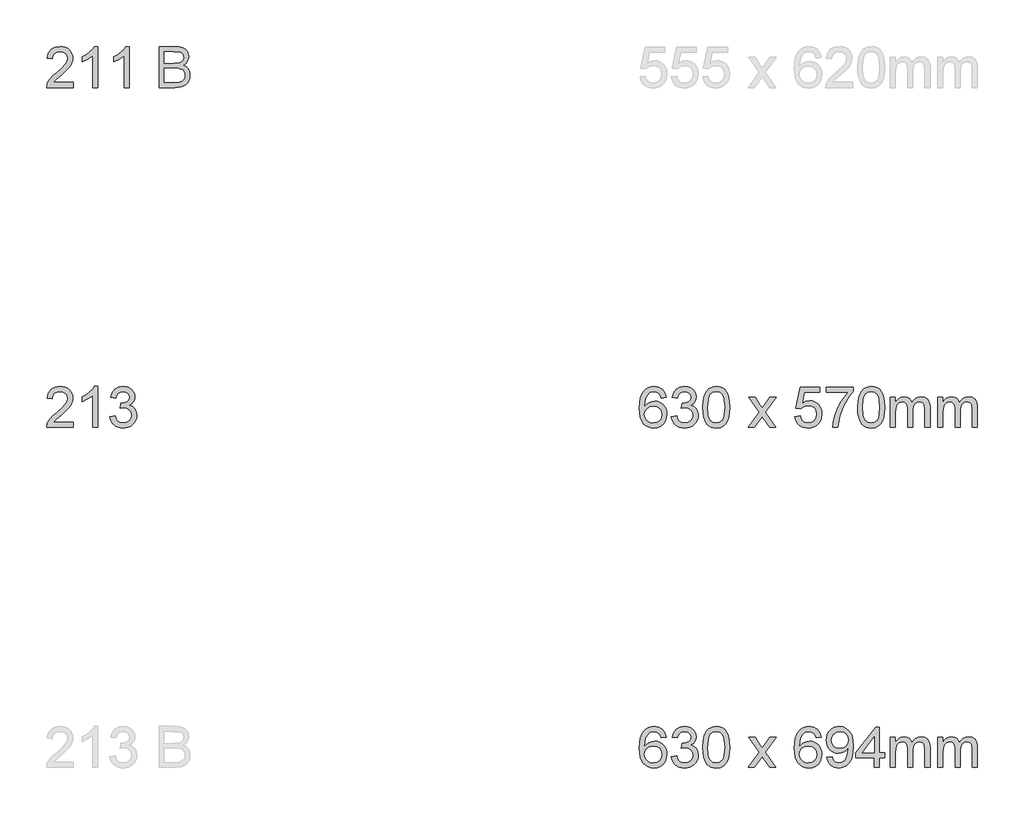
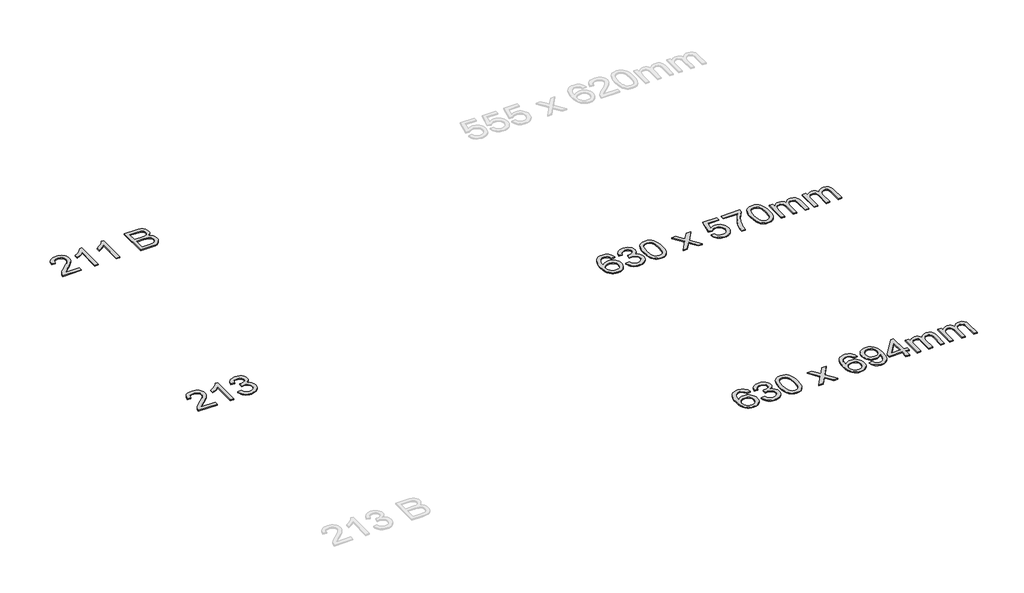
# One storey, part 32 of 35: 4 proxies.
"""IFC4 building model written with IfcOpenShell, lengths in millimetres."""

from ifc_helpers import new_model, si_unit, origin, origin_with_axes, place, context, project, spatial, polyline, outline, extrude, element, save

model = new_model("IFC4")

# Units and contexts
model_context = context("Model", 3, world=origin())
ifc_project = project(units=[si_unit("LENGTHUNIT", "METRE", prefix="MILLI")], contexts=[model_context])

# Site, building, storey
site = spatial("IfcSite", under=ifc_project)
building = spatial("IfcBuilding", under=site)
storey = spatial("IfcBuildingStorey", under=building, Name="Marelli - Linha YOU - Planta Baixa", Elevation=0.0)

# Proxies
placement = place(None, origin())
element("IfcBuildingElementProxy", 1, Name="300mm Arial", ObjectType="300mm Arial", at=placement, inside=storey, context=model_context, shape_type="SweptSolid", body=[
    extrude(outline(polyline([(-29510.11462, 11257.1047962), (-29510.11462, 11219.4336799), (-29707.8879806, 11219.4336799), (-29703.8412787, 11245.4061488), (-29694.5522583, 11265.7040379), (-29680.9590186, 11285.3949217), (-29661.2957259, 11306.0055104), (-29633.7965468, 11329.0625145), (-29593.1455863, 11365.1701323), (-29568.75501, 11391.8231829), (-29556.5597219, 11413.4546442), (-29552.4946258, 11434.4974943), (-29556.3297956, 11453.3606436), (-29567.835305, 11469.0416137), (-29585.521232, 11479.609024), (-29607.8976543, 11483.1314941), (-29631.3961168, 11479.6917974), (-29649.6522608, 11469.3727075), (-29661.4336817, 11452.9835646), (-29665.5079748, 11431.3337092), (-29703.1790911, 11436.0425987), (-29694.0464205, 11472.4813103), (-29685.5000619, 11487.0172476), (-29674.3003544, 11499.0975727), (-29660.7048155, 11508.5935267), (-29644.9709624, 11515.376351), (-29607.0883139, 11520.8026104), (-29586.8984902, 11519.2942942), (-29568.929754, 11514.7693457), (-29553.1821053, 11507.2277648), (-29539.6555442, 11496.6695515), (-29528.791529, 11483.8764551), (-29521.0315182, 11469.6302249), (-29516.3755117, 11453.9308607), (-29514.8235095, 11436.7783627), (-29516.4973726, 11418.761342), (-29521.5189619, 11401.057021), (-29530.4309032, 11383.0491973), (-29543.7758226, 11364.1216686), (-29565.0485989, 11341.5245171), (-29597.7441113, 11312.5078247), (-29641.0806103, 11276.2714482), (-29658.0767585, 11257.1047962), (-29510.11462, 11257.1047962)])), origin_with_axes(), (0.0, 0.0, 1.0), 10.0),
    extrude(outline(polyline([(-29331.1768175, 11219.4336799), (-29368.8479339, 11219.4336799), (-29368.8479339, 11454.2895457), (-29404.5324874, 11428.8688998), (-29444.1901665, 11409.8494006), (-29444.1901665, 11445.4603778), (-29414.603257, 11461.5552151), (-29388.971079, 11480.7034729), (-29368.7651604, 11501.0657413), (-29355.4570292, 11520.8026104), (-29331.1768175, 11520.8026104), (-29331.1768175, 11219.4336799)])), origin_with_axes(), (0.0, 0.0, 1.0), 10.0),
    extrude(outline(polyline([(-29100.4412302, 11219.4336799), (-29138.1123465, 11219.4336799), (-29138.1123465, 11454.2895457), (-29173.7969, 11428.8688998), (-29213.4545791, 11409.8494006), (-29213.4545791, 11445.4603778), (-29183.8676696, 11461.5552151), (-29158.2354916, 11480.7034729), (-29138.029573, 11501.0657413), (-29124.7214419, 11520.8026104), (-29100.4412302, 11520.8026104), (-29100.4412302, 11219.4336799)])), origin_with_axes(), (0.0, 0.0, 1.0), 10.0),
    extrude(outline(polyline([(-28879.1234219, 11219.4336799), (-28879.1234219, 11520.8026104), (-28764.1235102, 11520.8026104), (-28732.4948556, 11518.5861214), (-28707.8007767, 11511.9366543), (-28688.8732481, 11500.6886623), (-28674.5442444, 11484.6765985), (-28665.5219384, 11465.8410403), (-28662.5145031, 11446.1225654), (-28665.0436918, 11427.9767859), (-28672.631258, 11410.9162584), (-28685.3323839, 11395.9894465), (-28703.2022518, 11384.2448138), (-28681.855899, 11373.0979893), (-28666.0829585, 11356.1386293), (-28656.3432826, 11334.4887739), (-28653.096724, 11309.2704632), (-28655.3132131, 11288.2552042), (-28661.9626801, 11268.7666555), (-28671.8862969, 11252.1935716), (-28683.9252352, 11239.9247071), (-28698.6681062, 11231.0403569), (-28716.703521, 11224.6208161), (-28765.006427, 11219.4336799), (-28879.1234219, 11219.4336799)]), holes=[polyline([(-28841.4523056, 11398.3714824), (-28772.6583725, 11398.3714824), (-28732.4856586, 11401.6088439), (-28718.4233693, 11407.1914532), (-28708.3158115, 11415.5515716), (-28702.2181674, 11426.5604403), (-28700.1856194, 11440.0893006), (-28702.0802117, 11453.2226879), (-28707.7639885, 11464.6638179), (-28716.9794325, 11473.5941533), (-28729.4690262, 11479.1951567), (-28777.8822968, 11483.1314941), (-28841.4523056, 11483.1314941), (-28841.4523056, 11398.3714824)]), polyline([(-28841.4523056, 11257.1047962), (-28764.1970866, 11257.1047962), (-28736.2380549, 11258.5763242), (-28712.5832427, 11266.7800927), (-28696.9114697, 11283.5187235), (-28692.3037477, 11295.3461296), (-28690.7678403, 11308.9025812), (-28692.5704621, 11324.6479306), (-28697.9783274, 11338.185988), (-28707.4236977, 11348.7717924), (-28721.3388341, 11355.6603827), (-28741.048112, 11359.4403702), (-28767.8759065, 11360.7003661), (-28841.4523056, 11360.7003661), (-28841.4523056, 11257.1047962)])]), origin_with_axes(), (0.0, 0.0, 1.0), 10.0),
])
element("IfcBuildingElementProxy", 2, Name="300mm Arial", ObjectType="300mm Arial", at=placement, inside=storey, context=model_context, shape_type="SweptSolid", body=[
    extrude(outline(polyline([(-29510.11462, 8757.1047962), (-29510.11462, 8719.4336799), (-29707.8879806, 8719.4336799), (-29703.8412787, 8745.4061488), (-29694.5522583, 8765.7040379), (-29680.9590186, 8785.3949217), (-29661.2957259, 8806.0055104), (-29633.7965468, 8829.0625145), (-29593.1455863, 8865.1701323), (-29568.75501, 8891.8231829), (-29556.5597219, 8913.4546442), (-29552.4946258, 8934.4974943), (-29556.3297956, 8953.3606436), (-29567.835305, 8969.0416137), (-29585.521232, 8979.609024), (-29607.8976543, 8983.1314941), (-29631.3961168, 8979.6917974), (-29649.6522608, 8969.3727075), (-29661.4336817, 8952.9835646), (-29665.5079748, 8931.3337092), (-29703.1790911, 8936.0425987), (-29694.0464205, 8972.4813103), (-29685.5000619, 8987.0172476), (-29674.3003544, 8999.0975727), (-29660.7048155, 9008.5935267), (-29644.9709624, 9015.376351), (-29607.0883139, 9020.8026104), (-29586.8984902, 9019.2942942), (-29568.929754, 9014.7693457), (-29553.1821053, 9007.2277648), (-29539.6555442, 8996.6695515), (-29528.791529, 8983.8764551), (-29521.0315182, 8969.6302249), (-29516.3755117, 8953.9308607), (-29514.8235095, 8936.7783627), (-29516.4973726, 8918.761342), (-29521.5189619, 8901.057021), (-29530.4309032, 8883.0491973), (-29543.7758226, 8864.1216686), (-29565.0485989, 8841.5245171), (-29597.7441113, 8812.5078247), (-29641.0806103, 8776.2714482), (-29658.0767585, 8757.1047962), (-29510.11462, 8757.1047962)])), origin_with_axes(), (0.0, 0.0, 1.0), 10.0),
    extrude(outline(polyline([(-29331.1768175, 8719.4336799), (-29368.8479339, 8719.4336799), (-29368.8479339, 8954.2895457), (-29404.5324874, 8928.8688998), (-29444.1901665, 8909.8494006), (-29444.1901665, 8945.4603778), (-29414.603257, 8961.5552151), (-29388.971079, 8980.7034729), (-29368.7651604, 9001.0657413), (-29355.4570292, 9020.8026104), (-29331.1768175, 9020.8026104), (-29331.1768175, 8719.4336799)])), origin_with_axes(), (0.0, 0.0, 1.0), 10.0),
    extrude(outline(polyline([(-29241.7079163, 8799.4848021), (-29204.0368, 8804.1936916), (-29195.6031053, 8780.5204852), (-29183.2514673, 8764.5360125), (-29166.3748808, 8755.4309332), (-29144.3663404, 8752.3959067), (-29118.5410243, 8756.5713673), (-29098.6018202, 8769.0977493), (-29085.8547091, 8787.7861546), (-29081.605672, 8810.4476855), (-29085.8179209, 8831.9595852), (-29098.4546674, 8849.4063888), (-29117.5845311, 8860.9670805), (-29141.2761316, 8864.8206444), (-29167.6900589, 8860.7003661), (-29163.4962041, 8898.3714824), (-29157.4629394, 8897.930024), (-29134.893379, 8900.6339567), (-29114.7150516, 8908.7457546), (-29100.4780184, 8922.4677531), (-29095.7323406, 8942.002287), (-29099.1720373, 8958.2718683), (-29109.4911273, 8971.4696348), (-29125.2364766, 8980.2160293), (-29144.9549516, 8983.1314941), (-29164.7102147, 8980.1884381), (-29180.8602343, 8971.3592702), (-29192.6508523, 8956.6439904), (-29199.3279105, 8936.0425987), (-29236.9990268, 8940.7514882), (-29225.9073846, 8974.5782377), (-29206.1705156, 8999.8333367), (-29179.1679771, 9015.5602919), (-29146.2793268, 9020.8026104), (-29122.5969233, 9018.2182394), (-29100.8459004, 9010.4651263), (-29082.5069829, 8998.23305), (-29069.060896, 8982.2117891), (-29060.8111422, 8963.75331), (-29058.0612243, 8944.209579), (-29060.6731865, 8925.9994202), (-29068.509073, 8909.4815186), (-29081.4585192, 8895.4100323), (-29099.4111606, 8884.5391194), (-29075.8299247, 8875.0109757), (-29058.3555299, 8858.7873797), (-29047.5397993, 8836.7512482), (-29043.9345557, 8809.7854979), (-29045.7371775, 8790.6740283), (-29051.1450428, 8773.0708748), (-29060.1581517, 8756.9760375), (-29072.7765041, 8742.3895164), (-29088.149373, 8730.2861988), (-29105.4260312, 8721.6409719), (-29124.6064787, 8716.4538358), (-29145.6907156, 8714.7247904), (-29164.7470029, 8716.2009169), (-29182.1110331, 8720.6292964), (-29197.7828061, 8728.0099289), (-29211.7623219, 8738.3428145), (-29223.483962, 8751.0209477), (-29232.3821077, 8765.4373234), (-29238.4567592, 8781.5919415), (-29241.7079163, 8799.4848021)])), origin_with_axes(), (0.0, 0.0, 1.0), 10.0),
])
element("IfcBuildingElementProxy", 3, Name="300mm Arial", ObjectType="300mm Arial", at=placement, inside=storey, context=model_context, shape_type="SweptSolid", body=[
    extrude(outline(polyline([(-25150.5235972, 8940.7514882), (-25188.1947135, 8936.0425987), (-25194.2647664, 8954.7126099), (-25202.4685349, 8967.4597211), (-25219.5566536, 8979.2135508), (-25240.2132276, 8983.1314941), (-25257.7244106, 8980.8506257), (-25274.205524, 8974.0080206), (-25288.3597837, 8959.5962434), (-25299.9204754, 8939.7582068), (-25307.7287708, 8911.6980077), (-25310.6258415, 8872.6197427), (-25295.5150886, 8890.2504873), (-25277.4060973, 8902.6757017), (-25257.3105434, 8910.0425387), (-25236.2401021, 8912.498151), (-25218.1403079, 8910.8196894), (-25201.4384653, 8905.7843046), (-25186.1345743, 8897.3919966), (-25172.2286349, 8885.6427654), (-25160.6725417, 8871.2355867), (-25152.4181895, 8854.8694365), (-25147.4655781, 8836.5443146), (-25145.8147077, 8816.2602211), (-25148.9233105, 8789.2852738), (-25158.2491191, 8764.2784951), (-25173.0195812, 8743.0700981), (-25192.4621447, 8727.4902956), (-25215.6938927, 8717.9161667), (-25241.8319084, 8714.7247904), (-25264.288805, 8716.8401119), (-25284.5705992, 8723.1860763), (-25302.6772911, 8733.7626836), (-25318.6088808, 8748.5699339), (-25331.5974145, 8768.2332266), (-25340.8749386, 8793.377961), (-25346.441453, 8824.0041371), (-25348.2969578, 8860.1117549), (-25346.2368186, 8900.5925699), (-25340.0564011, 8935.1412878), (-25329.7557053, 8963.7579085), (-25315.334731, 8986.442432), (-25299.7043448, 9001.4750101), (-25281.581558, 9012.2125658), (-25260.9663707, 9018.6550992), (-25237.8587829, 9020.8026104), (-25204.8045856, 9015.4867156), (-25178.335476, 8999.5390311), (-25159.7942235, 8974.2103557), (-25150.5235972, 8940.7514882)]), holes=[polyline([(-25310.6258415, 8816.8488323), (-25308.4461407, 8800.1561867), (-25301.9070382, 8784.2176993), (-25291.7534952, 8770.514095), (-25278.7304725, 8760.5260988), (-25263.0127143, 8754.4284547), (-25244.7749644, 8752.3959067), (-25219.9153385, 8756.6081555), (-25200.3716076, 8769.2449021), (-25187.7072699, 8789.1105298), (-25183.485824, 8815.0094223), (-25187.6520876, 8839.8690481), (-25200.1508784, 8858.8241679), (-25220.0257031, 8870.826318), (-25246.3200687, 8874.8270347), (-25271.1429064, 8870.826318), (-25291.900648, 8858.8241679), (-25305.9445431, 8840.3289006), (-25310.6258415, 8816.8488323)])]), origin_with_axes(), (0.0, 0.0, 1.0), 10.0),
    extrude(outline(polyline([(-25112.8524809, 8799.4848021), (-25075.1813646, 8804.1936916), (-25066.7476699, 8780.5204852), (-25054.3960319, 8764.5360125), (-25037.5194453, 8755.4309332), (-25015.510905, 8752.3959067), (-24989.6855889, 8756.5713673), (-24969.7463848, 8769.0977493), (-24956.9992736, 8787.7861546), (-24952.7502366, 8810.4476855), (-24956.9624854, 8831.9595852), (-24969.599232, 8849.4063888), (-24988.7290957, 8860.9670805), (-25012.4206962, 8864.8206444), (-25038.8346235, 8860.7003661), (-25034.6407687, 8898.3714824), (-25028.607504, 8897.930024), (-25006.0379436, 8900.6339567), (-24985.8596162, 8908.7457546), (-24971.622583, 8922.4677531), (-24966.8769052, 8942.002287), (-24970.3166019, 8958.2718683), (-24980.6356918, 8971.4696348), (-24996.3810412, 8980.2160293), (-25016.0995162, 8983.1314941), (-25035.8547793, 8980.1884381), (-25052.0047989, 8971.3592702), (-25063.7954168, 8956.6439904), (-25070.4724751, 8936.0425987), (-25108.1435914, 8940.7514882), (-25097.0519492, 8974.5782377), (-25077.3150802, 8999.8333367), (-25050.3125417, 9015.5602919), (-25017.4238914, 9020.8026104), (-24993.7414879, 9018.2182394), (-24971.9904649, 9010.4651263), (-24953.6515475, 8998.23305), (-24940.2054606, 8982.2117891), (-24931.9557068, 8963.75331), (-24929.2057889, 8944.209579), (-24931.8177511, 8925.9994202), (-24939.6536376, 8909.4815186), (-24952.6030838, 8895.4100323), (-24970.5557252, 8884.5391194), (-24946.9744893, 8875.0109757), (-24929.5000945, 8858.7873797), (-24918.6843638, 8836.7512482), (-24915.0791203, 8809.7854979), (-24916.8817421, 8790.6740283), (-24922.2896074, 8773.0708748), (-24931.3027163, 8756.9760375), (-24943.9210687, 8742.3895164), (-24959.2939376, 8730.2861988), (-24976.5705958, 8721.6409719), (-24995.7510433, 8716.4538358), (-25016.8352802, 8714.7247904), (-25035.8915675, 8716.2009169), (-25053.2555977, 8720.6292964), (-25068.9273707, 8728.0099289), (-25082.9068865, 8738.3428145), (-25094.6285266, 8751.0209477), (-25103.5266723, 8765.4373234), (-25109.6013238, 8781.5919415), (-25112.8524809, 8799.4848021)])), origin_with_axes(), (0.0, 0.0, 1.0), 10.0),
    extrude(outline(polyline([(-24882.1168935, 8867.690124), (-24879.3485815, 8915.9286506), (-24871.0436455, 8954.3999103), (-24857.2848588, 8983.6925141), (-24838.1549951, 9004.3950734), (-24813.5160985, 9016.7007261), (-24783.2302132, 9020.8026104), (-24760.0168593, 9018.3745892), (-24739.2315266, 9011.0905257), (-24721.8491023, 8999.2355284), (-24708.8444738, 8983.0947059), (-24699.0220245, 8962.8060138), (-24691.186138, 8938.5074081), (-24686.0541842, 8907.6513057), (-24684.3435329, 8867.690124), (-24687.0842538, 8819.7275089), (-24695.3064164, 8781.3482197), (-24708.9824295, 8752.0280247), (-24728.0847021, 8731.242692), (-24752.7787811, 8718.8542658), (-24783.2302132, 8714.7247904), (-24803.9787577, 8716.5182151), (-24822.3728575, 8721.8984893), (-24838.4125125, 8730.8656129), (-24852.0977227, 8743.419586), (-24865.2311099, 8766.1133066), (-24874.6121008, 8794.3896364), (-24880.2406953, 8828.2485756), (-24882.1168935, 8867.690124)]), holes=[polyline([(-24844.4457772, 8867.7637004), (-24840.0311933, 8808.507108), (-24834.5129633, 8788.2391093), (-24826.7874414, 8774.211309), (-24807.0689665, 8757.8497573), (-24783.2302132, 8752.3959067), (-24759.3914599, 8757.8681514), (-24739.672985, 8774.2848854), (-24731.9474631, 8788.3356784), (-24726.4292332, 8808.5990785), (-24722.0146492, 8867.7637004), (-24726.2820804, 8925.6867205), (-24731.6163693, 8945.8880406), (-24739.0843738, 8960.249234), (-24758.7660605, 8977.410929), (-24783.6716716, 8983.1314941), (-24807.2529075, 8978.0915107), (-24826.1988303, 8962.9715607), (-24834.1818696, 8947.3365759), (-24839.8840405, 8926.2569376), (-24844.4457772, 8867.7637004)])]), origin_with_axes(), (0.0, 0.0, 1.0), 10.0),
    extrude(outline(polyline([(-24547.7857363, 8719.4336799), (-24467.2931558, 8830.6811953), (-24543.0768468, 8940.7514882), (-24497.753785, 8940.7514882), (-24461.1863146, 8887.7764809), (-24444.1165901, 8862.7605053), (-24429.3277339, 8883.2147442), (-24387.683492, 8940.7514882), (-24342.3604302, 8940.7514882), (-24421.970094, 8830.6811953), (-24345.3034862, 8719.4336799), (-24390.626548, 8719.4336799), (-24436.7589502, 8786.3146267), (-24445.2202361, 8798.5283089), (-24502.4626745, 8719.4336799), (-24547.7857363, 8719.4336799)])), origin_with_axes(), (0.0, 0.0, 1.0), 10.0),
    extrude(outline(polyline([(-24204.0368, 8799.4848021), (-24166.3656837, 8804.1936916), (-24159.4495022, 8781.578146), (-24147.3829728, 8765.3821411), (-24130.2212777, 8755.6424653), (-24108.0195993, 8752.3959067), (-24081.0170608, 8756.9116582), (-24060.7835511, 8770.4589127), (-24048.1468046, 8791.4741716), (-24043.9345557, 8818.3939366), (-24047.8800901, 8843.7410061), (-24059.7166933, 8863.1283872), (-24079.5363358, 8875.43404), (-24107.4309881, 8879.5359242), (-24125.7055262, 8877.8988494), (-24140.5035794, 8872.9876247), (-24161.6567942, 8855.9914765), (-24199.3279105, 8860.7003661), (-24166.3656837, 9016.0937208), (-24020.390108, 9016.0937208), (-24020.390108, 8978.4226045), (-24135.9050545, 8978.4226045), (-24152.0182859, 8895.4284264), (-24125.1077179, 8911.762387), (-24096.909563, 8917.2070405), (-24078.5637478, 8915.5193819), (-24061.7124531, 8910.4564059), (-24046.3556791, 8902.0181127), (-24032.4934257, 8890.2045021), (-24021.0178067, 8875.7375426), (-24012.820936, 8859.3392027), (-24007.9028135, 8841.0094823), (-24006.2634394, 8820.7483814), (-24012.1679454, 8783.0772651), (-24019.548578, 8766.283452), (-24029.8814635, 8750.8508023), (-24045.5348424, 8735.0456721), (-24063.8001835, 8723.7562934), (-24084.6774867, 8716.9826661), (-24108.1667521, 8714.7247904), (-24145.1664837, 8720.5281289), (-24160.8451545, 8727.782302), (-24174.6430286, 8737.9381443), (-24186.1232461, 8750.4898181), (-24194.8489472, 8764.9314857), (-24204.0368, 8799.4848021)])), origin_with_axes(), (0.0, 0.0, 1.0), 10.0),
    extrude(outline(polyline([(-23973.3012126, 8978.4226045), (-23973.3012126, 9016.0937208), (-23775.527852, 9016.0937208), (-23775.527852, 8985.6330916), (-23803.7168099, 8949.9577352), (-23831.6298563, 8904.5886881), (-23856.2503588, 8853.6646229), (-23874.5616851, 8801.3242121), (-23883.5380058, 8762.1631737), (-23888.541201, 8719.4336799), (-23926.2123173, 8719.4336799), (-23922.1380242, 8758.2636245), (-23911.2395201, 8804.4144208), (-23893.8111105, 8853.3335291), (-23870.1471012, 8900.4684098), (-23842.5191634, 8943.0783418), (-23813.1989683, 8978.4226045), (-23973.3012126, 8978.4226045)])), origin_with_axes(), (0.0, 0.0, 1.0), 10.0),
    extrude(outline(polyline([(-23742.5656253, 8867.690124), (-23739.7973133, 8915.9286506), (-23731.4923772, 8954.3999103), (-23717.7335906, 8983.6925141), (-23698.6037268, 9004.3950734), (-23673.9648302, 9016.7007261), (-23643.678945, 9020.8026104), (-23620.4655911, 9018.3745892), (-23599.6802583, 9011.0905257), (-23582.2978341, 8999.2355284), (-23569.2932055, 8983.0947059), (-23559.4707563, 8962.8060138), (-23551.6348698, 8938.5074081), (-23546.5029159, 8907.6513057), (-23544.7922647, 8867.690124), (-23547.5329855, 8819.7275089), (-23555.7551481, 8781.3482197), (-23569.4311613, 8752.0280247), (-23588.5334339, 8731.242692), (-23613.2275128, 8718.8542658), (-23643.678945, 8714.7247904), (-23664.4274895, 8716.5182151), (-23682.8215892, 8721.8984893), (-23698.8612442, 8730.8656129), (-23712.5464545, 8743.419586), (-23725.6798417, 8766.1133066), (-23735.0608326, 8794.3896364), (-23740.6894271, 8828.2485756), (-23742.5656253, 8867.690124)]), holes=[polyline([(-23704.894509, 8867.7637004), (-23700.479925, 8808.507108), (-23694.9616951, 8788.2391093), (-23687.2361732, 8774.211309), (-23667.5176982, 8757.8497573), (-23643.678945, 8752.3959067), (-23619.8401917, 8757.8681514), (-23600.1217167, 8774.2848854), (-23592.3961948, 8788.3356784), (-23586.8779649, 8808.5990785), (-23582.463381, 8867.7637004), (-23586.7308121, 8925.6867205), (-23592.065101, 8945.8880406), (-23599.5331055, 8960.249234), (-23619.2147923, 8977.410929), (-23644.1204034, 8983.1314941), (-23667.7016392, 8978.0915107), (-23686.647562, 8962.9715607), (-23694.6306013, 8947.3365759), (-23700.3327722, 8926.2569376), (-23704.894509, 8867.7637004)])]), origin_with_axes(), (0.0, 0.0, 1.0), 10.0),
    extrude(outline(polyline([(-23502.4122588, 8719.4336799), (-23502.4122588, 8940.7514882), (-23464.7411425, 8940.7514882), (-23464.7411425, 8904.3311707), (-23453.4103771, 8921.0606044), (-23438.84225, 8934.1664005), (-23421.5334022, 8942.6368835), (-23401.9804741, 8945.4603778), (-23381.0295945, 8942.5817012), (-23364.2357814, 8933.9456713), (-23351.6910054, 8920.1225054), (-23343.4872369, 8901.6824203), (-23329.7560414, 8920.8352767), (-23314.0934655, 8934.5158884), (-23296.4995091, 8942.7242554), (-23276.9741722, 8945.4603778), (-23248.6564556, 8940.9078381), (-23227.714773, 8927.250219), (-23214.7745238, 8904.1196386), (-23210.4611074, 8871.1482147), (-23210.4611074, 8719.4336799), (-23248.1322237, 8719.4336799), (-23248.1322237, 8854.961407), (-23251.6271027, 8886.4153175), (-23256.5383273, 8895.0881356), (-23264.2822433, 8901.9031495), (-23274.2426484, 8906.3177335), (-23285.8033401, 8907.7892615), (-23306.2115937, 8904.018471), (-23322.849057, 8892.7060997), (-23333.913108, 8873.0795952), (-23337.601125, 8844.3664055), (-23337.601125, 8719.4336799), (-23375.2722413, 8719.4336799), (-23375.2722413, 8859.1552617), (-23377.4519421, 8880.4556292), (-23383.9910446, 8895.6491556), (-23395.496554, 8904.754235), (-23412.5754756, 8907.7892615), (-23427.0884203, 8905.7659105), (-23440.4609308, 8899.6958576), (-23451.4973907, 8889.7262555), (-23459.0021834, 8876.0042571), (-23463.3064027, 8856.9663638), (-23464.7411425, 8831.0490773), (-23464.7411425, 8719.4336799), (-23502.4122588, 8719.4336799)])), origin_with_axes(), (0.0, 0.0, 1.0), 10.0),
    extrude(outline(polyline([(-23153.954433, 8719.4336799), (-23153.954433, 8940.7514882), (-23116.2833167, 8940.7514882), (-23116.2833167, 8904.3311707), (-23104.9525512, 8921.0606044), (-23090.3844242, 8934.1664005), (-23073.0755763, 8942.6368835), (-23053.5226483, 8945.4603778), (-23032.5717687, 8942.5817012), (-23015.7779556, 8933.9456713), (-23003.2331796, 8920.1225054), (-22995.0294111, 8901.6824203), (-22981.2982156, 8920.8352767), (-22965.6356397, 8934.5158884), (-22948.0416832, 8942.7242554), (-22928.5163463, 8945.4603778), (-22900.1986298, 8940.9078381), (-22879.2569472, 8927.250219), (-22866.316698, 8904.1196386), (-22862.0032816, 8871.1482147), (-22862.0032816, 8719.4336799), (-22899.6743979, 8719.4336799), (-22899.6743979, 8854.961407), (-22903.1692769, 8886.4153175), (-22908.0805015, 8895.0881356), (-22915.8244175, 8901.9031495), (-22925.7848225, 8906.3177335), (-22937.3455142, 8907.7892615), (-22957.7537679, 8904.018471), (-22974.3912311, 8892.7060997), (-22985.4552821, 8873.0795952), (-22989.1432991, 8844.3664055), (-22989.1432991, 8719.4336799), (-23026.8144154, 8719.4336799), (-23026.8144154, 8859.1552617), (-23028.9941163, 8880.4556292), (-23035.5332187, 8895.6491556), (-23047.0387281, 8904.754235), (-23064.1176498, 8907.7892615), (-23078.6305945, 8905.7659105), (-23092.003105, 8899.6958576), (-23103.0395648, 8889.7262555), (-23110.5443576, 8876.0042571), (-23114.8485769, 8856.9663638), (-23116.2833167, 8831.0490773), (-23116.2833167, 8719.4336799), (-23153.954433, 8719.4336799)])), origin_with_axes(), (0.0, 0.0, 1.0), 10.0),
])
element("IfcBuildingElementProxy", 4, Name="300mm Arial", ObjectType="300mm Arial", at=placement, inside=storey, context=model_context, shape_type="SweptSolid", body=[
    extrude(outline(polyline([(-25150.5235972, 6440.7514882), (-25188.1947135, 6436.0425987), (-25194.2647664, 6454.7126099), (-25202.4685349, 6467.4597211), (-25219.5566536, 6479.2135508), (-25240.2132276, 6483.1314941), (-25257.7244106, 6480.8506257), (-25274.205524, 6474.0080206), (-25288.3597837, 6459.5962434), (-25299.9204754, 6439.7582068), (-25307.7287708, 6411.6980077), (-25310.6258415, 6372.6197427), (-25295.5150886, 6390.2504873), (-25277.4060973, 6402.6757017), (-25257.3105434, 6410.0425387), (-25236.2401021, 6412.498151), (-25218.1403079, 6410.8196894), (-25201.4384653, 6405.7843046), (-25186.1345743, 6397.3919966), (-25172.2286349, 6385.6427654), (-25160.6725417, 6371.2355867), (-25152.4181895, 6354.8694365), (-25147.4655781, 6336.5443146), (-25145.8147077, 6316.2602211), (-25148.9233105, 6289.2852738), (-25158.2491191, 6264.2784951), (-25173.0195812, 6243.0700981), (-25192.4621447, 6227.4902956), (-25215.6938927, 6217.9161667), (-25241.8319084, 6214.7247904), (-25264.288805, 6216.8401119), (-25284.5705992, 6223.1860763), (-25302.6772911, 6233.7626836), (-25318.6088808, 6248.5699339), (-25331.5974145, 6268.2332266), (-25340.8749386, 6293.377961), (-25346.441453, 6324.0041371), (-25348.2969578, 6360.1117549), (-25346.2368186, 6400.5925699), (-25340.0564011, 6435.1412878), (-25329.7557053, 6463.7579085), (-25315.334731, 6486.442432), (-25299.7043448, 6501.4750101), (-25281.581558, 6512.2125658), (-25260.9663707, 6518.6550992), (-25237.8587829, 6520.8026104), (-25204.8045856, 6515.4867156), (-25178.335476, 6499.5390311), (-25159.7942235, 6474.2103557), (-25150.5235972, 6440.7514882)]), holes=[polyline([(-25310.6258415, 6316.8488323), (-25308.4461407, 6300.1561867), (-25301.9070382, 6284.2176993), (-25291.7534952, 6270.514095), (-25278.7304725, 6260.5260988), (-25263.0127143, 6254.4284547), (-25244.7749644, 6252.3959067), (-25219.9153385, 6256.6081555), (-25200.3716076, 6269.2449021), (-25187.7072699, 6289.1105298), (-25183.485824, 6315.0094223), (-25187.6520876, 6339.8690481), (-25200.1508784, 6358.8241679), (-25220.0257031, 6370.826318), (-25246.3200687, 6374.8270347), (-25271.1429064, 6370.826318), (-25291.900648, 6358.8241679), (-25305.9445431, 6340.3289006), (-25310.6258415, 6316.8488323)])]), origin_with_axes(), (0.0, 0.0, 1.0), 10.0),
    extrude(outline(polyline([(-25112.8524809, 6299.4848021), (-25075.1813646, 6304.1936916), (-25066.7476699, 6280.5204852), (-25054.3960319, 6264.5360125), (-25037.5194453, 6255.4309332), (-25015.510905, 6252.3959067), (-24989.6855889, 6256.5713673), (-24969.7463848, 6269.0977493), (-24956.9992736, 6287.7861546), (-24952.7502366, 6310.4476855), (-24956.9624854, 6331.9595852), (-24969.599232, 6349.4063888), (-24988.7290957, 6360.9670805), (-25012.4206962, 6364.8206444), (-25038.8346235, 6360.7003661), (-25034.6407687, 6398.3714824), (-25028.607504, 6397.930024), (-25006.0379436, 6400.6339567), (-24985.8596162, 6408.7457546), (-24971.622583, 6422.4677531), (-24966.8769052, 6442.002287), (-24970.3166019, 6458.2718683), (-24980.6356918, 6471.4696348), (-24996.3810412, 6480.2160293), (-25016.0995162, 6483.1314941), (-25035.8547793, 6480.1884381), (-25052.0047989, 6471.3592702), (-25063.7954168, 6456.6439904), (-25070.4724751, 6436.0425987), (-25108.1435914, 6440.7514882), (-25097.0519492, 6474.5782377), (-25077.3150802, 6499.8333367), (-25050.3125417, 6515.5602919), (-25017.4238914, 6520.8026104), (-24993.7414879, 6518.2182394), (-24971.9904649, 6510.4651263), (-24953.6515475, 6498.23305), (-24940.2054606, 6482.2117891), (-24931.9557068, 6463.75331), (-24929.2057889, 6444.209579), (-24931.8177511, 6425.9994202), (-24939.6536376, 6409.4815186), (-24952.6030838, 6395.4100323), (-24970.5557252, 6384.5391194), (-24946.9744893, 6375.0109757), (-24929.5000945, 6358.7873797), (-24918.6843638, 6336.7512482), (-24915.0791203, 6309.7854979), (-24916.8817421, 6290.6740283), (-24922.2896074, 6273.0708748), (-24931.3027163, 6256.9760375), (-24943.9210687, 6242.3895164), (-24959.2939376, 6230.2861988), (-24976.5705958, 6221.6409719), (-24995.7510433, 6216.4538358), (-25016.8352802, 6214.7247904), (-25035.8915675, 6216.2009169), (-25053.2555977, 6220.6292964), (-25068.9273707, 6228.0099289), (-25082.9068865, 6238.3428145), (-25094.6285266, 6251.0209477), (-25103.5266723, 6265.4373234), (-25109.6013238, 6281.5919415), (-25112.8524809, 6299.4848021)])), origin_with_axes(), (0.0, 0.0, 1.0), 10.0),
    extrude(outline(polyline([(-24882.1168935, 6367.690124), (-24879.3485815, 6415.9286506), (-24871.0436455, 6454.3999103), (-24857.2848588, 6483.6925141), (-24838.1549951, 6504.3950734), (-24813.5160985, 6516.7007261), (-24783.2302132, 6520.8026104), (-24760.0168593, 6518.3745892), (-24739.2315266, 6511.0905257), (-24721.8491023, 6499.2355284), (-24708.8444738, 6483.0947059), (-24699.0220245, 6462.8060138), (-24691.186138, 6438.5074081), (-24686.0541842, 6407.6513057), (-24684.3435329, 6367.690124), (-24687.0842538, 6319.7275089), (-24695.3064164, 6281.3482197), (-24708.9824295, 6252.0280247), (-24728.0847021, 6231.242692), (-24752.7787811, 6218.8542658), (-24783.2302132, 6214.7247904), (-24803.9787577, 6216.5182151), (-24822.3728575, 6221.8984893), (-24838.4125125, 6230.8656129), (-24852.0977227, 6243.419586), (-24865.2311099, 6266.1133066), (-24874.6121008, 6294.3896364), (-24880.2406953, 6328.2485756), (-24882.1168935, 6367.690124)]), holes=[polyline([(-24844.4457772, 6367.7637004), (-24840.0311933, 6308.507108), (-24834.5129633, 6288.2391093), (-24826.7874414, 6274.211309), (-24807.0689665, 6257.8497573), (-24783.2302132, 6252.3959067), (-24759.3914599, 6257.8681514), (-24739.672985, 6274.2848854), (-24731.9474631, 6288.3356784), (-24726.4292332, 6308.5990785), (-24722.0146492, 6367.7637004), (-24726.2820804, 6425.6867205), (-24731.6163693, 6445.8880406), (-24739.0843738, 6460.249234), (-24758.7660605, 6477.410929), (-24783.6716716, 6483.1314941), (-24807.2529075, 6478.0915107), (-24826.1988303, 6462.9715607), (-24834.1818696, 6447.3365759), (-24839.8840405, 6426.2569376), (-24844.4457772, 6367.7637004)])]), origin_with_axes(), (0.0, 0.0, 1.0), 10.0),
    extrude(outline(polyline([(-24547.7857363, 6219.4336799), (-24467.2931558, 6330.6811953), (-24543.0768468, 6440.7514882), (-24497.753785, 6440.7514882), (-24461.1863146, 6387.7764809), (-24444.1165901, 6362.7605053), (-24429.3277339, 6383.2147442), (-24387.683492, 6440.7514882), (-24342.3604302, 6440.7514882), (-24421.970094, 6330.6811953), (-24345.3034862, 6219.4336799), (-24390.626548, 6219.4336799), (-24436.7589502, 6286.3146267), (-24445.2202361, 6298.5283089), (-24502.4626745, 6219.4336799), (-24547.7857363, 6219.4336799)])), origin_with_axes(), (0.0, 0.0, 1.0), 10.0),
    extrude(outline(polyline([(-24010.9723289, 6440.7514882), (-24048.6434453, 6436.0425987), (-24054.7134982, 6454.7126099), (-24062.9172667, 6467.4597211), (-24080.0053853, 6479.2135508), (-24100.6619594, 6483.1314941), (-24118.1731423, 6480.8506257), (-24134.6542557, 6474.0080206), (-24148.8085155, 6459.5962434), (-24160.3692072, 6439.7582068), (-24168.1775025, 6411.6980077), (-24171.0745732, 6372.6197427), (-24155.9638203, 6390.2504873), (-24137.8548291, 6402.6757017), (-24117.7592751, 6410.0425387), (-24096.6888338, 6412.498151), (-24078.5890397, 6410.8196894), (-24061.8871971, 6405.7843046), (-24046.5833061, 6397.3919966), (-24032.6773667, 6385.6427654), (-24021.1212735, 6371.2355867), (-24012.8669212, 6354.8694365), (-24007.9143099, 6336.5443146), (-24006.2634394, 6316.2602211), (-24009.3720423, 6289.2852738), (-24018.6978508, 6264.2784951), (-24033.468313, 6243.0700981), (-24052.9108764, 6227.4902956), (-24076.1426244, 6217.9161667), (-24102.2806401, 6214.7247904), (-24124.7375367, 6216.8401119), (-24145.0193309, 6223.1860763), (-24163.1260229, 6233.7626836), (-24179.0576125, 6248.5699339), (-24192.0461462, 6268.2332266), (-24201.3236703, 6293.377961), (-24206.8901847, 6324.0041371), (-24208.7456896, 6360.1117549), (-24206.6855504, 6400.5925699), (-24200.5051329, 6435.1412878), (-24190.204437, 6463.7579085), (-24175.7834628, 6486.442432), (-24160.1530765, 6501.4750101), (-24142.0302897, 6512.2125658), (-24121.4151024, 6518.6550992), (-24098.3075146, 6520.8026104), (-24065.2533173, 6515.4867156), (-24038.7842078, 6499.5390311), (-24020.2429552, 6474.2103557), (-24010.9723289, 6440.7514882)]), holes=[polyline([(-24171.0745732, 6316.8488323), (-24168.8948724, 6300.1561867), (-24162.35577, 6284.2176993), (-24152.2022269, 6270.514095), (-24139.1792043, 6260.5260988), (-24123.461446, 6254.4284547), (-24105.2236961, 6252.3959067), (-24080.3640703, 6256.6081555), (-24060.8203393, 6269.2449021), (-24048.1560016, 6289.1105298), (-24043.9345557, 6315.0094223), (-24048.1008193, 6339.8690481), (-24060.5996101, 6358.8241679), (-24080.4744349, 6370.826318), (-24106.7688005, 6374.8270347), (-24131.5916381, 6370.826318), (-24152.3493797, 6358.8241679), (-24166.3932749, 6340.3289006), (-24171.0745732, 6316.8488323)])]), origin_with_axes(), (0.0, 0.0, 1.0), 10.0),
    extrude(outline(polyline([(-23968.5923231, 6294.7759125), (-23930.9212068, 6299.4848021), (-23924.4832719, 6278.1016611), (-23913.998635, 6263.5427312), (-23899.7248136, 6255.1826128), (-23881.919325, 6252.3959067), (-23865.9440494, 6254.1893314), (-23851.4219076, 6259.5696056), (-23839.3553782, 6267.948118), (-23830.7469395, 6278.7362576), (-23818.4228927, 6311.4777551), (-23812.9782391, 6355.1821362), (-23813.1989683, 6362.5397761), (-23826.2495821, 6346.6104857), (-23843.3285037, 6333.9921332), (-23863.2033285, 6325.7699706), (-23884.6416518, 6323.0292498), (-23902.5368116, 6324.7031129), (-23918.9926331, 6329.7247021), (-23934.0091163, 6338.0940175), (-23947.5862612, 6349.811059), (-23958.8365524, 6364.2642229), (-23966.8724748, 6380.8419053), (-23971.6940282, 6399.5441062), (-23973.3012126, 6420.3708257), (-23971.6158532, 6441.8919224), (-23966.5597751, 6461.2057272), (-23958.1329781, 6478.3122399), (-23946.3354624, 6493.2114607), (-23931.9995609, 6505.2825887), (-23915.9576066, 6513.904823), (-23898.2095996, 6519.0781635), (-23878.7555399, 6520.8026104), (-23850.6585525, 6516.866273), (-23825.0815568, 6505.057261), (-23803.6892188, 6485.9641854), (-23788.1462045, 6460.1756576), (-23778.6824401, 6424.5278922), (-23775.527852, 6375.8571043), (-23778.6732431, 6324.2524574), (-23788.1094163, 6284.3648521), (-23803.7535981, 6254.3916665), (-23825.5230152, 6232.530279), (-23852.4795684, 6219.1761625), (-23883.6851586, 6214.7247904), (-23915.8932273, 6219.9763059), (-23941.5897847, 6235.7308523), (-23959.5608201, 6260.9951483), (-23968.5923231, 6294.7759125)]), holes=[polyline([(-23813.1989683, 6421.2537425), (-23817.2640644, 6446.784753), (-23829.4593525, 6466.4296515), (-23848.3868812, 6478.9560334), (-23872.6486988, 6483.1314941), (-23897.8118272, 6478.6341367), (-23917.9717606, 6465.1420645), (-23931.2155124, 6444.4946875), (-23935.6300963, 6418.5314157), (-23931.4546357, 6395.2536825), (-23918.9282538, 6376.7768093), (-23899.2649611, 6364.7194769), (-23873.6787683, 6360.7003661), (-23849.6100888, 6364.7194769), (-23830.2319047, 6376.7768093), (-23817.4572024, 6395.9342642), (-23813.1989683, 6421.2537425)])]), origin_with_axes(), (0.0, 0.0, 1.0), 10.0),
    extrude(outline(polyline([(-23620.1344973, 6219.4336799), (-23620.1344973, 6290.067023), (-23756.6922939, 6290.067023), (-23756.6922939, 6327.7381393), (-23610.7167182, 6516.0937208), (-23582.463381, 6516.0937208), (-23582.463381, 6327.7381393), (-23544.7922647, 6327.7381393), (-23544.7922647, 6290.067023), (-23582.463381, 6290.067023), (-23582.463381, 6219.4336799), (-23620.1344973, 6219.4336799)]), holes=[polyline([(-23620.1344973, 6327.7381393), (-23620.1344973, 6444.1360026), (-23710.3391625, 6327.7381393), (-23620.1344973, 6327.7381393)])]), origin_with_axes(), (0.0, 0.0, 1.0), 10.0),
    extrude(outline(polyline([(-23502.4122588, 6219.4336799), (-23502.4122588, 6440.7514882), (-23464.7411425, 6440.7514882), (-23464.7411425, 6404.3311707), (-23453.4103771, 6421.0606044), (-23438.84225, 6434.1664005), (-23421.5334022, 6442.6368835), (-23401.9804741, 6445.4603778), (-23381.0295945, 6442.5817012), (-23364.2357814, 6433.9456713), (-23351.6910054, 6420.1225054), (-23343.4872369, 6401.6824203), (-23329.7560414, 6420.8352767), (-23314.0934655, 6434.5158884), (-23296.4995091, 6442.7242554), (-23276.9741722, 6445.4603778), (-23248.6564556, 6440.9078381), (-23227.714773, 6427.250219), (-23214.7745238, 6404.1196386), (-23210.4611074, 6371.1482147), (-23210.4611074, 6219.4336799), (-23248.1322237, 6219.4336799), (-23248.1322237, 6354.961407), (-23251.6271027, 6386.4153175), (-23256.5383273, 6395.0881356), (-23264.2822433, 6401.9031495), (-23274.2426484, 6406.3177335), (-23285.8033401, 6407.7892615), (-23306.2115937, 6404.018471), (-23322.849057, 6392.7060997), (-23333.913108, 6373.0795952), (-23337.601125, 6344.3664055), (-23337.601125, 6219.4336799), (-23375.2722413, 6219.4336799), (-23375.2722413, 6359.1552617), (-23377.4519421, 6380.4556292), (-23383.9910446, 6395.6491556), (-23395.496554, 6404.754235), (-23412.5754756, 6407.7892615), (-23427.0884203, 6405.7659105), (-23440.4609308, 6399.6958576), (-23451.4973907, 6389.7262555), (-23459.0021834, 6376.0042571), (-23463.3064027, 6356.9663638), (-23464.7411425, 6331.0490773), (-23464.7411425, 6219.4336799), (-23502.4122588, 6219.4336799)])), origin_with_axes(), (0.0, 0.0, 1.0), 10.0),
    extrude(outline(polyline([(-23153.954433, 6219.4336799), (-23153.954433, 6440.7514882), (-23116.2833167, 6440.7514882), (-23116.2833167, 6404.3311707), (-23104.9525512, 6421.0606044), (-23090.3844242, 6434.1664005), (-23073.0755763, 6442.6368835), (-23053.5226483, 6445.4603778), (-23032.5717687, 6442.5817012), (-23015.7779556, 6433.9456713), (-23003.2331796, 6420.1225054), (-22995.0294111, 6401.6824203), (-22981.2982156, 6420.8352767), (-22965.6356397, 6434.5158884), (-22948.0416832, 6442.7242554), (-22928.5163463, 6445.4603778), (-22900.1986298, 6440.9078381), (-22879.2569472, 6427.250219), (-22866.316698, 6404.1196386), (-22862.0032816, 6371.1482147), (-22862.0032816, 6219.4336799), (-22899.6743979, 6219.4336799), (-22899.6743979, 6354.961407), (-22903.1692769, 6386.4153175), (-22908.0805015, 6395.0881356), (-22915.8244175, 6401.9031495), (-22925.7848225, 6406.3177335), (-22937.3455142, 6407.7892615), (-22957.7537679, 6404.018471), (-22974.3912311, 6392.7060997), (-22985.4552821, 6373.0795952), (-22989.1432991, 6344.3664055), (-22989.1432991, 6219.4336799), (-23026.8144154, 6219.4336799), (-23026.8144154, 6359.1552617), (-23028.9941163, 6380.4556292), (-23035.5332187, 6395.6491556), (-23047.0387281, 6404.754235), (-23064.1176498, 6407.7892615), (-23078.6305945, 6405.7659105), (-23092.003105, 6399.6958576), (-23103.0395648, 6389.7262555), (-23110.5443576, 6376.0042571), (-23114.8485769, 6356.9663638), (-23116.2833167, 6331.0490773), (-23116.2833167, 6219.4336799), (-23153.954433, 6219.4336799)])), origin_with_axes(), (0.0, 0.0, 1.0), 10.0),
])

save(model, "model.ifc")
